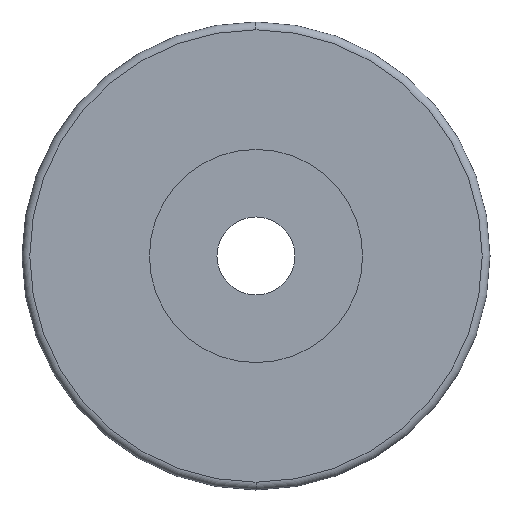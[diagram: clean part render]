
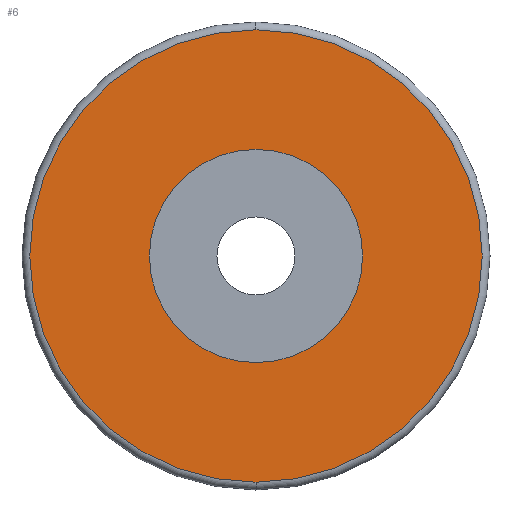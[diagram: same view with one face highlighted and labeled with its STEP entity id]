
A CAD part, left-side view. The second image highlights one B-rep face of the part: STEP entity #6.
In plain terms, the highlighted planar face has unit normal (-1, 0, 0).
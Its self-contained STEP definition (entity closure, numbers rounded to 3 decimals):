
#6 = ADVANCED_FACE ( 'NONE', ( #71, #284 ), #128, .F. ) ;
#9 = DIRECTION ( 'NONE',  ( 0., 0., -1. ) ) ;
#10 = CARTESIAN_POINT ( 'NONE',  ( 0., 0., 4.1 ) ) ;
#12 = EDGE_LOOP ( 'NONE', ( #168, #330 ) ) ;
#16 = EDGE_CURVE ( 'NONE', #515, #433, #628, .T. ) ;
#40 = DIRECTION ( 'NONE',  ( -1., 0., 0. ) ) ;
#66 = CARTESIAN_POINT ( 'NONE',  ( 0., 0., -8.7 ) ) ;
#67 = AXIS2_PLACEMENT_3D ( 'NONE', #336, #406, #346 ) ;
#71 = FACE_OUTER_BOUND ( 'NONE', #12, .T. ) ;
#90 = CARTESIAN_POINT ( 'NONE',  ( 0., 0., 0. ) ) ;
#107 = DIRECTION ( 'NONE',  ( -1., 0., 0. ) ) ;
#127 = DIRECTION ( 'NONE',  ( -1., 0., 0. ) ) ;
#128 = PLANE ( 'NONE',  #67 ) ;
#149 = EDGE_CURVE ( 'NONE', #545, #383, #183, .T. ) ;
#159 = ORIENTED_EDGE ( 'NONE', *, *, #534, .F. ) ;
#160 = AXIS2_PLACEMENT_3D ( 'NONE', #572, #398, #9 ) ;
#168 = ORIENTED_EDGE ( 'NONE', *, *, #301, .T. ) ;
#183 = CIRCLE ( 'NONE', #379, 4.1 ) ;
#186 = CARTESIAN_POINT ( 'NONE',  ( 0., 0., 8.7 ) ) ;
#194 = DIRECTION ( 'NONE',  ( 0., 0., 1. ) ) ;
#242 = DIRECTION ( 'NONE',  ( 0., 0., 1. ) ) ;
#253 = CIRCLE ( 'NONE', #641, 8.7 ) ;
#262 = EDGE_LOOP ( 'NONE', ( #159, #333 ) ) ;
#284 = FACE_BOUND ( 'NONE', #262, .T. ) ;
#301 = EDGE_CURVE ( 'NONE', #433, #515, #253, .T. ) ;
#330 = ORIENTED_EDGE ( 'NONE', *, *, #16, .T. ) ;
#333 = ORIENTED_EDGE ( 'NONE', *, *, #149, .F. ) ;
#336 = CARTESIAN_POINT ( 'NONE',  ( 0., 4.1, 0. ) ) ;
#346 = DIRECTION ( 'NONE',  ( 0., 0., -1. ) ) ;
#379 = AXIS2_PLACEMENT_3D ( 'NONE', #90, #40, #194 ) ;
#383 = VERTEX_POINT ( 'NONE', #10 ) ;
#398 = DIRECTION ( 'NONE',  ( -1., 0., 0. ) ) ;
#401 = CARTESIAN_POINT ( 'NONE',  ( 0., 0., -4.1 ) ) ;
#406 = DIRECTION ( 'NONE',  ( 1., 0., 0. ) ) ;
#433 = VERTEX_POINT ( 'NONE', #66 ) ;
#440 = DIRECTION ( 'NONE',  ( 0., 0., -1. ) ) ;
#447 = CIRCLE ( 'NONE', #550, 4.1 ) ;
#515 = VERTEX_POINT ( 'NONE', #186 ) ;
#534 = EDGE_CURVE ( 'NONE', #383, #545, #447, .T. ) ;
#545 = VERTEX_POINT ( 'NONE', #401 ) ;
#550 = AXIS2_PLACEMENT_3D ( 'NONE', #663, #127, #242 ) ;
#572 = CARTESIAN_POINT ( 'NONE',  ( 0., 0., 0. ) ) ;
#628 = CIRCLE ( 'NONE', #160, 8.7 ) ;
#641 = AXIS2_PLACEMENT_3D ( 'NONE', #642, #107, #440 ) ;
#642 = CARTESIAN_POINT ( 'NONE',  ( 0., 0., 0. ) ) ;
#663 = CARTESIAN_POINT ( 'NONE',  ( 0., 0., 0. ) ) ;
